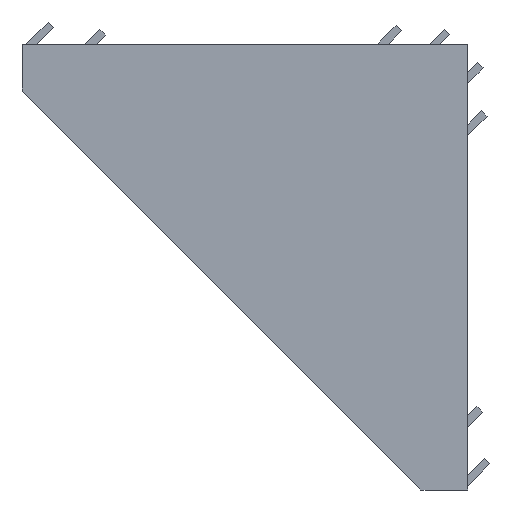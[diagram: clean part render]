
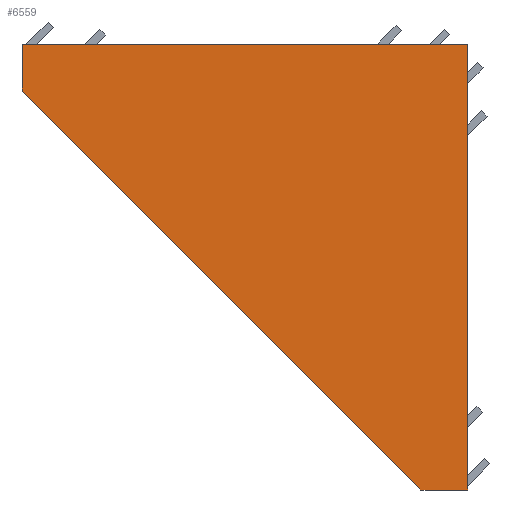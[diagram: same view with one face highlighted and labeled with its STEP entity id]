
A CAD part, left-side view. The second image highlights one B-rep face of the part: STEP entity #6559.
In plain terms, the highlighted planar face has unit normal (-1, 0, 0).
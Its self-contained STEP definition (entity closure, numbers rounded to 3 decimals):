
#79 = VECTOR ( 'NONE', #1493, 1000. ) ;
#405 = LINE ( 'NONE', #5191, #79 ) ;
#460 = DIRECTION ( 'NONE',  ( 0., 0., -1. ) ) ;
#979 = VERTEX_POINT ( 'NONE', #2272 ) ;
#1073 = VECTOR ( 'NONE', #4374, 1000. ) ;
#1493 = DIRECTION ( 'NONE',  ( 0., 0., -1. ) ) ;
#1684 = EDGE_CURVE ( 'NONE', #979, #5689, #405, .T. ) ;
#1742 = ORIENTED_EDGE ( 'NONE', *, *, #6335, .F. ) ;
#1772 = AXIS2_PLACEMENT_3D ( 'NONE', #3081, #3621, #460 ) ;
#1775 = DIRECTION ( 'NONE',  ( 0., 1., 0. ) ) ;
#1848 = EDGE_CURVE ( 'NONE', #5689, #2127, #5608, .T. ) ;
#2127 = VERTEX_POINT ( 'NONE', #5797 ) ;
#2128 = CARTESIAN_POINT ( 'NONE',  ( -31.139, 40.463, 0. ) ) ;
#2260 = ORIENTED_EDGE ( 'NONE', *, *, #1848, .T. ) ;
#2272 = CARTESIAN_POINT ( 'NONE',  ( -31.139, 40.463, 6. ) ) ;
#2365 = DIRECTION ( 'NONE',  ( 0., -0.707, -0.707 ) ) ;
#2485 = LINE ( 'NONE', #3340, #3718 ) ;
#3053 = VERTEX_POINT ( 'NONE', #6273 ) ;
#3081 = CARTESIAN_POINT ( 'NONE',  ( -31.139, 40.463, 6. ) ) ;
#3235 = DIRECTION ( 'NONE',  ( 0., 0., -1. ) ) ;
#3340 = CARTESIAN_POINT ( 'NONE',  ( -31.139, -10.535, -51. ) ) ;
#3621 = DIRECTION ( 'NONE',  ( 1., 0., 0. ) ) ;
#3718 = VECTOR ( 'NONE', #1775, 1000. ) ;
#3790 = FACE_OUTER_BOUND ( 'NONE', #4928, .T. ) ;
#3845 = CARTESIAN_POINT ( 'NONE',  ( -31.139, 40.463, 6. ) ) ;
#4184 = VECTOR ( 'NONE', #2365, 1000. ) ;
#4374 = DIRECTION ( 'NONE',  ( 0., -1., 0. ) ) ;
#4479 = CARTESIAN_POINT ( 'NONE',  ( -31.139, 40.463, 0. ) ) ;
#4514 = EDGE_CURVE ( 'NONE', #5053, #3053, #6458, .T. ) ;
#4743 = ORIENTED_EDGE ( 'NONE', *, *, #6292, .F. ) ;
#4822 = CARTESIAN_POINT ( 'NONE',  ( -31.139, -16.537, 6. ) ) ;
#4928 = EDGE_LOOP ( 'NONE', ( #5602, #2260, #1742, #5798, #4743 ) ) ;
#5053 = VERTEX_POINT ( 'NONE', #5457 ) ;
#5191 = CARTESIAN_POINT ( 'NONE',  ( -31.139, 40.463, 6. ) ) ;
#5457 = CARTESIAN_POINT ( 'NONE',  ( -31.139, -16.537, 6. ) ) ;
#5602 = ORIENTED_EDGE ( 'NONE', *, *, #1684, .T. ) ;
#5608 = LINE ( 'NONE', #4479, #4184 ) ;
#5689 = VERTEX_POINT ( 'NONE', #2128 ) ;
#5797 = CARTESIAN_POINT ( 'NONE',  ( -31.139, -10.535, -51. ) ) ;
#5798 = ORIENTED_EDGE ( 'NONE', *, *, #4514, .F. ) ;
#6254 = PLANE ( 'NONE',  #1772 ) ;
#6273 = CARTESIAN_POINT ( 'NONE',  ( -31.139, -16.537, -51. ) ) ;
#6292 = EDGE_CURVE ( 'NONE', #979, #5053, #6714, .T. ) ;
#6301 = VECTOR ( 'NONE', #3235, 1000. ) ;
#6335 = EDGE_CURVE ( 'NONE', #3053, #2127, #2485, .T. ) ;
#6458 = LINE ( 'NONE', #4822, #6301 ) ;
#6559 = ADVANCED_FACE ( 'NONE', ( #3790 ), #6254, .F. ) ;
#6714 = LINE ( 'NONE', #3845, #1073 ) ;
